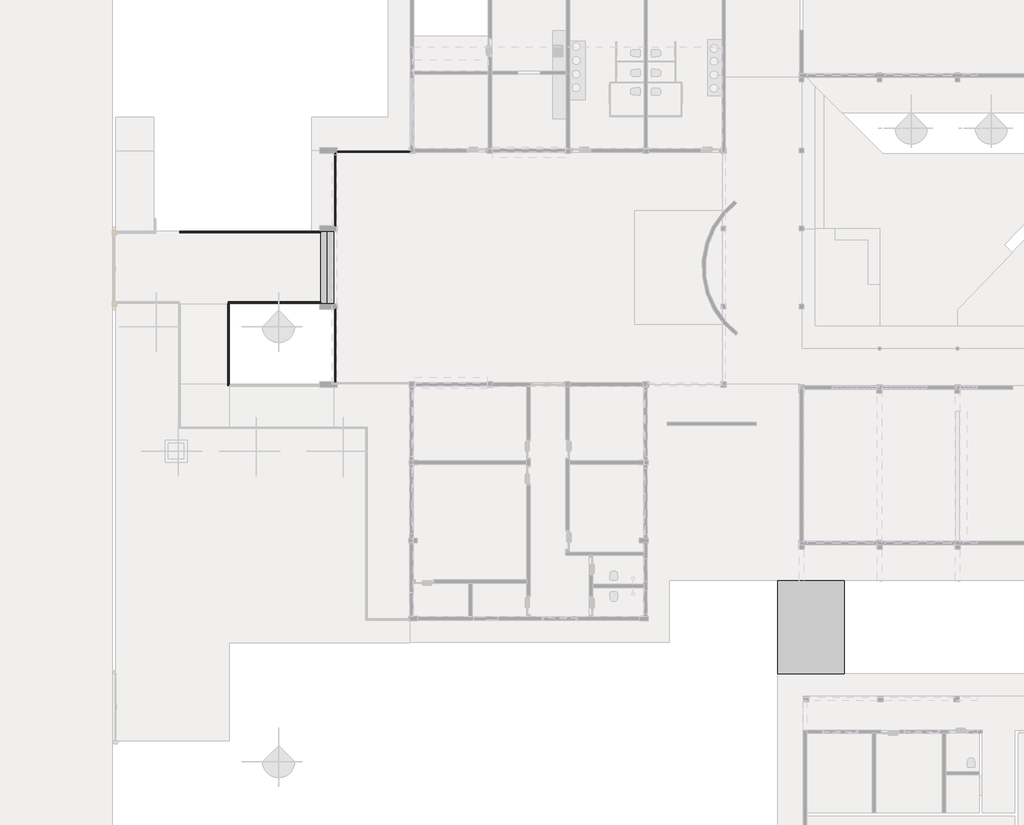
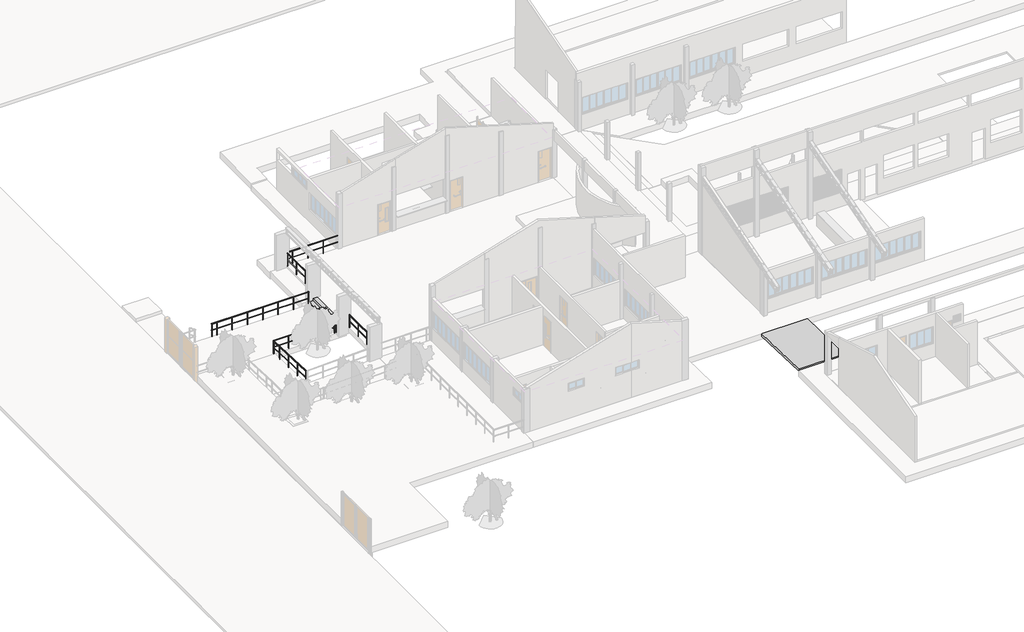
# One storey, part 10 of 12: 6 railings, 1 ramp, 1 stair flight.
"""IFC4 building model written with IfcOpenShell, lengths in millimetres."""

from ifc_helpers import new_model, si_unit, point, frame, frame_2d, origin, origin_with_axes, place, context, project, spatial, polyline, circle_curve, ellipse_curve, trimmed, segment, composite_curve, outline, extrude, faceted_brep, transform, mapped, element, save
from ifc_brep_helpers import plane_surface, cylinder_surface, advanced_brep
from components import ramp_bc2fdf4a

model = new_model("IFC4")

# Units and contexts
model_context = context("Model", 3, world=origin())
ifc_project = project(units=[si_unit("LENGTHUNIT", "METRE", prefix="MILLI")], contexts=[model_context])

# Site, building, storey
site = spatial("IfcSite", under=ifc_project)
building = spatial("IfcBuilding", under=site)
storey = spatial("IfcBuildingStorey", under=building, Name="Nível 1", Elevation=0.0)

# Railings
placement = place(None, origin())
element("IfcRailing", 1, ObjectType="900 mm Tubulação", at=placement, inside=storey, context=model_context, shape_type="SweptSolid", body=[
    extrude(outline(composite_curve([segment(trimmed(circle_curve(frame_2d((22671.5862478, 880.0)), 20.0), [point((22651.5862478, 880.0))], [point((22671.5862478, 900.0))], False, "CARTESIAN"), True, "CONTINUOUS"), segment(polyline([(22671.5862478, 900.0), (22691.5862478, 900.0)]), True, "CONTINUOUS"), segment(trimmed(circle_curve(frame_2d((22691.5862478, 880.0)), 20.0), [point((22691.5862478, 900.0))], [point((22711.5862478, 880.0))], False, "CARTESIAN"), True, "CONTINUOUS"), segment(polyline([(22711.5862478, 880.0), (22681.5862478, 880.0), (22651.5862478, 880.0)]), True, "CONTINUOUS")], self_intersect=False)), frame((-25143.1268603, 0.0, 0.0), z_axis=(1.0, 0.0, 0.0), x_axis=(0.0, 1.0, 0.0)), (0.0, 0.0, 1.0), 6344.6),
    extrude(outline(composite_curve([segment(trimmed(circle_curve(frame_2d((22681.5862478, 885.0)), 15.0), [point((22696.5862478, 885.0))], [point((22666.5862478, 885.0))], False, "CARTESIAN"), True, "CONTINUOUS"), segment(trimmed(circle_curve(frame_2d((22681.5862478, 885.0)), 15.0), [point((22666.5862478, 885.0))], [point((22696.5862478, 885.0))], False, "CARTESIAN"), True, "CONTINUOUS")], self_intersect=False)), frame((-25143.1268603, 0.0, 0.0), z_axis=(1.0, 0.0, 0.0), x_axis=(0.0, 1.0, 0.0)), (0.0, 0.0, 1.0), 6344.6),
    extrude(outline(composite_curve([segment(trimmed(circle_curve(frame_2d((22681.5862478, 435.0)), 15.0), [point((22696.5862478, 435.0))], [point((22666.5862478, 435.0))], False, "CARTESIAN"), True, "CONTINUOUS"), segment(trimmed(circle_curve(frame_2d((22681.5862478, 435.0)), 15.0), [point((22666.5862478, 435.0))], [point((22696.5862478, 435.0))], False, "CARTESIAN"), True, "CONTINUOUS")], self_intersect=False)), frame((-25143.1268603, 0.0, 0.0), z_axis=(1.0, 0.0, 0.0), x_axis=(0.0, 1.0, 0.0)), (0.0, 0.0, 1.0), 6344.6),
    extrude(outline(composite_curve([segment(trimmed(circle_curve(frame_2d((-24798.5268603, 22681.5862478)), 12.5), [point((-24798.5268603, 22694.0862478))], [point((-24798.5268603, 22669.0862478))], False, "CARTESIAN"), True, "CONTINUOUS"), segment(trimmed(circle_curve(frame_2d((-24798.5268603, 22681.5862478)), 12.5), [point((-24798.5268603, 22669.0862478))], [point((-24798.5268603, 22694.0862478))], False, "CARTESIAN"), True, "CONTINUOUS")], self_intersect=False)), origin_with_axes(), (0.0, 0.0, 1.0), 870.0),
    extrude(outline(composite_curve([segment(trimmed(circle_curve(frame_2d((-23798.5268603, 22681.5862478)), 12.5), [point((-23798.5268603, 22694.0862478))], [point((-23798.5268603, 22669.0862478))], False, "CARTESIAN"), True, "CONTINUOUS"), segment(trimmed(circle_curve(frame_2d((-23798.5268603, 22681.5862478)), 12.5), [point((-23798.5268603, 22669.0862478))], [point((-23798.5268603, 22694.0862478))], False, "CARTESIAN"), True, "CONTINUOUS")], self_intersect=False)), origin_with_axes(), (0.0, 0.0, 1.0), 870.0),
    extrude(outline(composite_curve([segment(trimmed(circle_curve(frame_2d((-22798.5268603, 22681.5862478)), 12.5), [point((-22798.5268603, 22694.0862478))], [point((-22798.5268603, 22669.0862478))], False, "CARTESIAN"), True, "CONTINUOUS"), segment(trimmed(circle_curve(frame_2d((-22798.5268603, 22681.5862478)), 12.5), [point((-22798.5268603, 22669.0862478))], [point((-22798.5268603, 22694.0862478))], False, "CARTESIAN"), True, "CONTINUOUS")], self_intersect=False)), origin_with_axes(), (0.0, 0.0, 1.0), 870.0),
    extrude(outline(composite_curve([segment(trimmed(circle_curve(frame_2d((-21798.5268603, 22681.5862478)), 12.5), [point((-21798.5268603, 22694.0862478))], [point((-21798.5268603, 22669.0862478))], False, "CARTESIAN"), True, "CONTINUOUS"), segment(trimmed(circle_curve(frame_2d((-21798.5268603, 22681.5862478)), 12.5), [point((-21798.5268603, 22669.0862478))], [point((-21798.5268603, 22694.0862478))], False, "CARTESIAN"), True, "CONTINUOUS")], self_intersect=False)), origin_with_axes(), (0.0, 0.0, 1.0), 870.0),
    extrude(outline(composite_curve([segment(trimmed(circle_curve(frame_2d((-20798.5268603, 22681.5862478)), 12.5), [point((-20798.5268603, 22694.0862478))], [point((-20798.5268603, 22669.0862478))], False, "CARTESIAN"), True, "CONTINUOUS"), segment(trimmed(circle_curve(frame_2d((-20798.5268603, 22681.5862478)), 12.5), [point((-20798.5268603, 22669.0862478))], [point((-20798.5268603, 22694.0862478))], False, "CARTESIAN"), True, "CONTINUOUS")], self_intersect=False)), origin_with_axes(), (0.0, 0.0, 1.0), 870.0),
    extrude(outline(composite_curve([segment(trimmed(circle_curve(frame_2d((-19798.5268603, 22681.5862478)), 12.5), [point((-19798.5268603, 22694.0862478))], [point((-19798.5268603, 22669.0862478))], False, "CARTESIAN"), True, "CONTINUOUS"), segment(trimmed(circle_curve(frame_2d((-19798.5268603, 22681.5862478)), 12.5), [point((-19798.5268603, 22669.0862478))], [point((-19798.5268603, 22694.0862478))], False, "CARTESIAN"), True, "CONTINUOUS")], self_intersect=False)), origin_with_axes(), (0.0, 0.0, 1.0), 870.0),
    extrude(outline(composite_curve([segment(trimmed(circle_curve(frame_2d((-25130.6268603, 22681.5862478)), 12.5), [point((-25130.6268603, 22694.0862478))], [point((-25130.6268603, 22669.0862478))], False, "CARTESIAN"), True, "CONTINUOUS"), segment(trimmed(circle_curve(frame_2d((-25130.6268603, 22681.5862478)), 12.5), [point((-25130.6268603, 22669.0862478))], [point((-25130.6268603, 22694.0862478))], False, "CARTESIAN"), True, "CONTINUOUS")], self_intersect=False)), origin_with_axes(), (0.0, 0.0, 1.0), 880.0),
    extrude(outline(composite_curve([segment(trimmed(circle_curve(frame_2d((-18811.0268603, 22681.5862478)), 12.5), [point((-18811.0268603, 22694.0862478))], [point((-18811.0268603, 22669.0862478))], False, "CARTESIAN"), True, "CONTINUOUS"), segment(trimmed(circle_curve(frame_2d((-18811.0268603, 22681.5862478)), 12.5), [point((-18811.0268603, 22669.0862478))], [point((-18811.0268603, 22694.0862478))], False, "CARTESIAN"), True, "CONTINUOUS")], self_intersect=False)), origin_with_axes(), (0.0, 0.0, 1.0), 880.0),
])
element("IfcRailing", 2, ObjectType="900 mm Tubulação", at=placement, inside=storey, context=model_context, shape_type="SweptSolid", body=[
    extrude(outline(composite_curve([segment(trimmed(circle_curve(frame_2d((26271.1862478, 1180.0)), 20.0), [point((26251.1862478, 1180.0))], [point((26271.1862478, 1200.0))], False, "CARTESIAN"), True, "CONTINUOUS"), segment(polyline([(26271.1862478, 1200.0), (26291.1862478, 1200.0)]), True, "CONTINUOUS"), segment(trimmed(circle_curve(frame_2d((26291.1862478, 1180.0)), 20.0), [point((26291.1862478, 1200.0))], [point((26311.1862478, 1180.0))], False, "CARTESIAN"), True, "CONTINUOUS"), segment(polyline([(26311.1862478, 1180.0), (26281.1862478, 1180.0), (26251.1862478, 1180.0)]), True, "CONTINUOUS")], self_intersect=False)), frame((-18048.5268603, 0.0, 0.0), z_axis=(1.0, 0.0, 0.0), x_axis=(0.0, 1.0, 0.0)), (0.0, 0.0, 1.0), 3275.0554127),
    extrude(outline(composite_curve([segment(trimmed(circle_curve(frame_2d((26281.1862478, 1185.0)), 15.0), [point((26266.1862478, 1185.0))], [point((26296.1862478, 1185.0))], False, "CARTESIAN"), True, "CONTINUOUS"), segment(trimmed(circle_curve(frame_2d((26281.1862478, 1185.0)), 15.0), [point((26296.1862478, 1185.0))], [point((26266.1862478, 1185.0))], False, "CARTESIAN"), True, "CONTINUOUS")], self_intersect=False)), frame((-18048.5268603, 0.0, 0.0), z_axis=(1.0, 0.0, 0.0), x_axis=(0.0, 1.0, 0.0)), (0.0, 0.0, 1.0), 3275.0554127),
    extrude(outline(composite_curve([segment(trimmed(circle_curve(frame_2d((26281.1862478, 735.0)), 15.0), [point((26266.1862478, 735.0))], [point((26296.1862478, 735.0))], False, "CARTESIAN"), True, "CONTINUOUS"), segment(trimmed(circle_curve(frame_2d((26281.1862478, 735.0)), 15.0), [point((26296.1862478, 735.0))], [point((26266.1862478, 735.0))], False, "CARTESIAN"), True, "CONTINUOUS")], self_intersect=False)), frame((-18048.5268603, 0.0, 0.0), z_axis=(1.0, 0.0, 0.0), x_axis=(0.0, 1.0, 0.0)), (0.0, 0.0, 1.0), 3275.0554127),
    extrude(outline(composite_curve([segment(trimmed(circle_curve(frame_2d((-17773.4714475, 26281.1862478)), 12.5), [point((-17773.4714475, 26268.6862478))], [point((-17773.4714475, 26293.6862478))], False, "CARTESIAN"), True, "CONTINUOUS"), segment(trimmed(circle_curve(frame_2d((-17773.4714475, 26281.1862478)), 12.5), [point((-17773.4714475, 26293.6862478))], [point((-17773.4714475, 26268.6862478))], False, "CARTESIAN"), True, "CONTINUOUS")], self_intersect=False)), frame((0.0, 0.0, 300.0), z_axis=(0.0, 0.0, 1.0), x_axis=(1.0, 0.0, 0.0)), (0.0, 0.0, 1.0), 870.0),
    extrude(outline(composite_curve([segment(trimmed(circle_curve(frame_2d((-16773.4714475, 26281.1862478)), 12.5), [point((-16773.4714475, 26268.6862478))], [point((-16773.4714475, 26293.6862478))], False, "CARTESIAN"), True, "CONTINUOUS"), segment(trimmed(circle_curve(frame_2d((-16773.4714475, 26281.1862478)), 12.5), [point((-16773.4714475, 26293.6862478))], [point((-16773.4714475, 26268.6862478))], False, "CARTESIAN"), True, "CONTINUOUS")], self_intersect=False)), frame((0.0, 0.0, 300.0), z_axis=(0.0, 0.0, 1.0), x_axis=(1.0, 0.0, 0.0)), (0.0, 0.0, 1.0), 870.0),
    extrude(outline(composite_curve([segment(trimmed(circle_curve(frame_2d((-15773.4714475, 26281.1862478)), 12.5), [point((-15773.4714475, 26268.6862478))], [point((-15773.4714475, 26293.6862478))], False, "CARTESIAN"), True, "CONTINUOUS"), segment(trimmed(circle_curve(frame_2d((-15773.4714475, 26281.1862478)), 12.5), [point((-15773.4714475, 26293.6862478))], [point((-15773.4714475, 26268.6862478))], False, "CARTESIAN"), True, "CONTINUOUS")], self_intersect=False)), frame((0.0, 0.0, 300.0), z_axis=(0.0, 0.0, 1.0), x_axis=(1.0, 0.0, 0.0)), (0.0, 0.0, 1.0), 870.0),
    extrude(outline(composite_curve([segment(trimmed(circle_curve(frame_2d((-18036.0268603, 26281.1862478)), 12.5), [point((-18036.0268603, 26268.6862478))], [point((-18036.0268603, 26293.6862478))], False, "CARTESIAN"), True, "CONTINUOUS"), segment(trimmed(circle_curve(frame_2d((-18036.0268603, 26281.1862478)), 12.5), [point((-18036.0268603, 26293.6862478))], [point((-18036.0268603, 26268.6862478))], False, "CARTESIAN"), True, "CONTINUOUS")], self_intersect=False)), frame((0.0, 0.0, 300.0), z_axis=(0.0, 0.0, 1.0), x_axis=(1.0, 0.0, 0.0)), (0.0, 0.0, 1.0), 880.0),
    extrude(outline(composite_curve([segment(trimmed(circle_curve(frame_2d((-14785.9714475, 26281.1862478)), 12.5), [point((-14785.9714475, 26268.6862478))], [point((-14785.9714475, 26293.6862478))], False, "CARTESIAN"), True, "CONTINUOUS"), segment(trimmed(circle_curve(frame_2d((-14785.9714475, 26281.1862478)), 12.5), [point((-14785.9714475, 26293.6862478))], [point((-14785.9714475, 26268.6862478))], False, "CARTESIAN"), True, "CONTINUOUS")], self_intersect=False)), frame((0.0, 0.0, 300.0), z_axis=(0.0, 0.0, 1.0), x_axis=(1.0, 0.0, 0.0)), (0.0, 0.0, 1.0), 880.0),
])
element("IfcRailing", 3, ObjectType="900 mm Tubulação", at=placement, inside=storey, context=model_context, shape_type="SweptSolid", body=[
    extrude(outline(composite_curve([segment(polyline([(19536.1862478, 880.0), (19506.1862478, 880.0), (19476.1862478, 880.0)]), True, "CONTINUOUS"), segment(trimmed(circle_curve(frame_2d((19496.1862478, 880.0)), 20.0), [point((19476.1862478, 880.0))], [point((19496.1862478, 900.0))], False, "CARTESIAN"), True, "CONTINUOUS"), segment(polyline([(19496.1862478, 900.0), (19516.1862478, 900.0)]), True, "CONTINUOUS"), segment(trimmed(circle_curve(frame_2d((19516.1862478, 880.0)), 20.0), [point((19516.1862478, 900.0))], [point((19536.1862478, 880.0))], False, "CARTESIAN"), True, "CONTINUOUS")], self_intersect=False)), frame((-22948.5268603, 0.0, 0.0), z_axis=(1.0, 0.0, 0.0), x_axis=(0.0, 1.0, 0.0)), (0.0, 0.0, 1.0), 4150.0),
    extrude(outline(composite_curve([segment(trimmed(circle_curve(frame_2d((19506.1862478, 885.0)), 15.0), [point((19521.1862478, 885.0))], [point((19491.1862478, 885.0))], False, "CARTESIAN"), True, "CONTINUOUS"), segment(trimmed(circle_curve(frame_2d((19506.1862478, 885.0)), 15.0), [point((19491.1862478, 885.0))], [point((19521.1862478, 885.0))], False, "CARTESIAN"), True, "CONTINUOUS")], self_intersect=False)), frame((-22948.5268603, 0.0, 0.0), z_axis=(1.0, 0.0, 0.0), x_axis=(0.0, 1.0, 0.0)), (0.0, 0.0, 1.0), 4150.0),
    extrude(outline(composite_curve([segment(trimmed(circle_curve(frame_2d((19506.1862478, 435.0)), 15.0), [point((19521.1862478, 435.0))], [point((19491.1862478, 435.0))], False, "CARTESIAN"), True, "CONTINUOUS"), segment(trimmed(circle_curve(frame_2d((19506.1862478, 435.0)), 15.0), [point((19491.1862478, 435.0))], [point((19521.1862478, 435.0))], False, "CARTESIAN"), True, "CONTINUOUS")], self_intersect=False)), frame((-22948.5268603, 0.0, 0.0), z_axis=(1.0, 0.0, 0.0), x_axis=(0.0, 1.0, 0.0)), (0.0, 0.0, 1.0), 4150.0),
    extrude(outline(composite_curve([segment(trimmed(circle_curve(frame_2d((-18948.5268603, 19506.1862478)), 12.5), [point((-18948.5268603, 19518.6862478))], [point((-18948.5268603, 19493.6862478))], False, "CARTESIAN"), True, "CONTINUOUS"), segment(trimmed(circle_curve(frame_2d((-18948.5268603, 19506.1862478)), 12.5), [point((-18948.5268603, 19493.6862478))], [point((-18948.5268603, 19518.6862478))], False, "CARTESIAN"), True, "CONTINUOUS")], self_intersect=False)), origin_with_axes(), (0.0, 0.0, 1.0), 870.0),
    extrude(outline(composite_curve([segment(trimmed(circle_curve(frame_2d((-19948.5268603, 19506.1862478)), 12.5), [point((-19948.5268603, 19518.6862478))], [point((-19948.5268603, 19493.6862478))], False, "CARTESIAN"), True, "CONTINUOUS"), segment(trimmed(circle_curve(frame_2d((-19948.5268603, 19506.1862478)), 12.5), [point((-19948.5268603, 19493.6862478))], [point((-19948.5268603, 19518.6862478))], False, "CARTESIAN"), True, "CONTINUOUS")], self_intersect=False)), origin_with_axes(), (0.0, 0.0, 1.0), 870.0),
    extrude(outline(composite_curve([segment(trimmed(circle_curve(frame_2d((-20948.5268603, 19506.1862478)), 12.5), [point((-20948.5268603, 19518.6862478))], [point((-20948.5268603, 19493.6862478))], False, "CARTESIAN"), True, "CONTINUOUS"), segment(trimmed(circle_curve(frame_2d((-20948.5268603, 19506.1862478)), 12.5), [point((-20948.5268603, 19493.6862478))], [point((-20948.5268603, 19518.6862478))], False, "CARTESIAN"), True, "CONTINUOUS")], self_intersect=False)), origin_with_axes(), (0.0, 0.0, 1.0), 870.0),
    extrude(outline(composite_curve([segment(trimmed(circle_curve(frame_2d((-21948.5268603, 19506.1862478)), 12.5), [point((-21948.5268603, 19518.6862478))], [point((-21948.5268603, 19493.6862478))], False, "CARTESIAN"), True, "CONTINUOUS"), segment(trimmed(circle_curve(frame_2d((-21948.5268603, 19506.1862478)), 12.5), [point((-21948.5268603, 19493.6862478))], [point((-21948.5268603, 19518.6862478))], False, "CARTESIAN"), True, "CONTINUOUS")], self_intersect=False)), origin_with_axes(), (0.0, 0.0, 1.0), 870.0),
    extrude(outline(composite_curve([segment(trimmed(circle_curve(frame_2d((-18811.0268603, 19506.1862478)), 12.5), [point((-18811.0268603, 19518.6862478))], [point((-18811.0268603, 19493.6862478))], False, "CARTESIAN"), True, "CONTINUOUS"), segment(trimmed(circle_curve(frame_2d((-18811.0268603, 19506.1862478)), 12.5), [point((-18811.0268603, 19493.6862478))], [point((-18811.0268603, 19518.6862478))], False, "CARTESIAN"), True, "CONTINUOUS")], self_intersect=False)), origin_with_axes(), (0.0, 0.0, 1.0), 880.0),
    extrude(outline(composite_curve([segment(trimmed(circle_curve(frame_2d((-22936.0268603, 19506.1862478)), 12.5), [point((-22936.0268603, 19518.6862478))], [point((-22936.0268603, 19493.6862478))], False, "CARTESIAN"), True, "CONTINUOUS"), segment(trimmed(circle_curve(frame_2d((-22936.0268603, 19506.1862478)), 12.5), [point((-22936.0268603, 19493.6862478))], [point((-22936.0268603, 19518.6862478))], False, "CARTESIAN"), True, "CONTINUOUS")], self_intersect=False)), origin_with_axes(), (0.0, 0.0, 1.0), 880.0),
])
element("IfcRailing", 4, ObjectType="900 mm Tubulação", at=placement, inside=storey, context=model_context, shape_type="AdvancedBrep", body=[
    advanced_brep(
    [(-22978.5268603, 15781.1862478, 1032.0622716), (-22948.5268603, 15781.1862478, 1032.0622716), (-22918.5268603, 15781.1862478, 1032.0622716), (-22938.5268603, 15781.1862478, 1052.0795625), (-22958.5268603, 15781.1862478, 1052.0795625), (-22978.5268603, 19456.1862478, 879.2144305), (-22958.5268603, 19456.1862478, 899.2317214), (-22938.5268603, 19456.1862478, 899.2317214), (-22918.5268603, 19456.1862478, 879.2144305), (-22948.5268603, 19456.1862478, 879.2144305)],
    [
        (0, 1),
        (1, 2),
        (2, 3, ellipse_curve(frame((-22938.5268603, 15781.1862478, 1032.0622716), z_axis=(0.0, -1.0, 0.0), x_axis=(0.0, 0.0, 1.0)), 20.0172908, 20.0)),
        (3, 4),
        (4, 0, ellipse_curve(frame((-22958.5268603, 15781.1862478, 1032.0622716), z_axis=(0.0, -1.0, 0.0), x_axis=(0.0, 0.0, 1.0)), 20.0172908, 20.0)),
        (5, 6, ellipse_curve(frame((-22958.5268603, 19456.1862478, 879.2144305), z_axis=(0.0, 1.0, 0.0), x_axis=(0.0, 0.0, 1.0)), 20.0172908, 20.0)),
        (6, 7),
        (7, 8, ellipse_curve(frame((-22938.5268603, 19456.1862478, 879.2144305), z_axis=(0.0, 1.0, 0.0), x_axis=(0.0, 0.0, 1.0)), 20.0172908, 20.0)),
        (8, 9),
        (9, 5),
        (0, 5),
        (9, 1),
        (8, 2),
        (7, 3),
        (6, 4),
    ],
    [
        plane_surface(frame((-22948.5268603, 15781.1862478, 1052.0795625), z_axis=(0.0, -1.0, 0.0), x_axis=(0.0, 0.0, 1.0))),
        plane_surface(frame((-22948.5268603, 19456.1862478, 899.2317214), z_axis=(0.0, 1.0, 0.0), x_axis=(0.0, 0.0, 1.0))),
        plane_surface(frame((-22978.5268603, 15781.1862478, 1032.0622716), z_axis=(0.0, -0.041555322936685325, -0.999136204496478), x_axis=(0.0, 0.999136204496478, -0.041555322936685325))),
        plane_surface(frame((-22948.5268603, 15781.1862478, 1032.0622716), z_axis=(0.0, -0.041555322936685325, -0.999136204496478), x_axis=(0.0, 0.999136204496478, -0.041555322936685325))),
        cylinder_surface(frame((-22938.5268603, 15780.3551413, 1032.0968384), z_axis=(0.0, -0.999136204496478, 0.041555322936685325), x_axis=(-1.0, 0.0, 0.0)), 20.0),
        plane_surface(frame((-22938.5268603, 15781.1862478, 1052.0795625), z_axis=(0.0, 0.041555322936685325, 0.999136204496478), x_axis=(0.0, 0.999136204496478, -0.041555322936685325))),
        cylinder_surface(frame((-22958.5268603, 15780.3551413, 1032.0968384), z_axis=(0.0, -0.999136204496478, 0.041555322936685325), x_axis=(-1.0, 0.0, 0.0)), 20.0),
    ],
    [
        (0, [[1, 2, 3, 4, 5]]),
        (1, [[6, 7, 8, 9, 10]]),
        (2, [[-1, 11, -10, 12]]),
        (3, [[-2, -12, -9, 13]]),
        (4, [[-3, -13, -8, 14]]),
        (5, [[-4, -14, -7, 15]]),
        (6, [[-5, -15, -6, -11]]),
    ],
),
    advanced_brep(
    [(-22963.5268603, 15781.1862478, 1037.0665943), (-22933.5268603, 15781.1862478, 1037.0665943), (-22963.5268603, 19456.1862478, 884.2187533), (-22933.5268603, 19456.1862478, 884.2187533)],
    [
        (0, 1, ellipse_curve(frame((-22948.5268603, 15781.1862478, 1037.0665943), z_axis=(0.0, -1.0, 0.0), x_axis=(0.0, 0.0, 1.0)), 15.0129681, 15.0)),
        (1, 0, ellipse_curve(frame((-22948.5268603, 15781.1862478, 1037.0665943), z_axis=(0.0, -1.0, 0.0), x_axis=(0.0, 0.0, 1.0)), 15.0129681, 15.0)),
        (2, 3, ellipse_curve(frame((-22948.5268603, 19456.1862478, 884.2187533), z_axis=(0.0, 1.0, 0.0), x_axis=(0.0, 0.0, 1.0)), 15.0129681, 15.0)),
        (3, 2, ellipse_curve(frame((-22948.5268603, 19456.1862478, 884.2187533), z_axis=(0.0, 1.0, 0.0), x_axis=(0.0, 0.0, 1.0)), 15.0129681, 15.0)),
        (0, 2),
        (3, 1),
    ],
    [
        plane_surface(frame((-22948.5268603, 15781.1862478, 1052.0795625), z_axis=(0.0, -1.0, 0.0), x_axis=(0.0, 0.0, 1.0))),
        plane_surface(frame((-22948.5268603, 19456.1862478, 899.2317214), z_axis=(0.0, 1.0, 0.0), x_axis=(0.0, 0.0, 1.0))),
        cylinder_surface(frame((-22948.5268603, 15780.5629179, 1037.0925194), z_axis=(0.0, -0.999136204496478, 0.041555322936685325), x_axis=(1.0, 0.0, 0.0)), 15.0),
    ],
    [
        (0, [[1, 2]]),
        (1, [[3, 4]]),
        (2, [[-1, 5, -4, 6]]),
        (2, [[-2, -6, -3, -5]]),
    ],
),
    advanced_brep(
    [(-22963.5268603, 15781.1862478, 587.0665943), (-22933.5268603, 15781.1862478, 587.0665943), (-22963.5268603, 19456.1862478, 434.2187533), (-22933.5268603, 19456.1862478, 434.2187533)],
    [
        (0, 1, ellipse_curve(frame((-22948.5268603, 15781.1862478, 587.0665943), z_axis=(0.0, -1.0, 0.0), x_axis=(0.0, 0.0, 1.0)), 15.0129681, 15.0)),
        (1, 0, ellipse_curve(frame((-22948.5268603, 15781.1862478, 587.0665943), z_axis=(0.0, -1.0, 0.0), x_axis=(0.0, 0.0, 1.0)), 15.0129681, 15.0)),
        (2, 3, ellipse_curve(frame((-22948.5268603, 19456.1862478, 434.2187533), z_axis=(0.0, 1.0, 0.0), x_axis=(0.0, 0.0, 1.0)), 15.0129681, 15.0)),
        (3, 2, ellipse_curve(frame((-22948.5268603, 19456.1862478, 434.2187533), z_axis=(0.0, 1.0, 0.0), x_axis=(0.0, 0.0, 1.0)), 15.0129681, 15.0)),
        (0, 2),
        (3, 1),
    ],
    [
        plane_surface(frame((-22948.5268603, 15781.1862478, 602.0795625), z_axis=(0.0, -1.0, 0.0), x_axis=(0.0, 0.0, 1.0))),
        plane_surface(frame((-22948.5268603, 19456.1862478, 449.2317214), z_axis=(0.0, 1.0, 0.0), x_axis=(0.0, 0.0, 1.0))),
        cylinder_surface(frame((-22948.5268603, 15780.5629179, 587.0925194), z_axis=(0.0, -0.999136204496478, 0.04155532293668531), x_axis=(1.0, 0.0, 0.0)), 15.0),
    ],
    [
        (0, [[1, 2]]),
        (1, [[3, 4]]),
        (2, [[-1, 5, -4, 6]]),
        (2, [[-2, -6, -3, -5]]),
    ],
),
    advanced_brep(
    [(-22936.0268603, 18781.1862478, 897.3058147), (-22936.0268603, 18781.1862478, 27.3058147), (-22961.0268603, 18781.1862478, 27.3058147), (-22961.0268603, 18781.1862478, 897.3058147)],
    [
        (0, 1),
        (1, 2, ellipse_curve(frame((-22948.5268603, 18781.1862478, 27.3058147), z_axis=(0.0, 0.04155532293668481, 0.999136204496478), x_axis=(0.0, -0.9991362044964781, 0.04155532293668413)), 12.5108068, 12.5)),
        (2, 3),
        (3, 0, ellipse_curve(frame((-22948.5268603, 18781.1862478, 897.3058147), z_axis=(0.0, -0.04155532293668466, -0.999136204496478), x_axis=(0.0, -0.9991362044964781, 0.041555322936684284)), 12.5108068, 12.5)),
        (0, 3, ellipse_curve(frame((-22948.5268603, 18781.1862478, 897.3058147), z_axis=(0.0, -0.04155532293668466, -0.999136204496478), x_axis=(0.0, -0.9991362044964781, 0.041555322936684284)), 12.5108068, 12.5)),
        (2, 1, ellipse_curve(frame((-22948.5268603, 18781.1862478, 27.3058147), z_axis=(0.0, 0.04155532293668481, 0.999136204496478), x_axis=(0.0, -0.9991362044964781, 0.04155532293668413)), 12.5108068, 12.5)),
    ],
    [
        cylinder_surface(frame((-22948.5268603, 18781.1862478, -72.6941853), z_axis=(0.0, 0.0, 1.0), x_axis=(-1.0, 0.0, 0.0)), 12.5),
        plane_surface(frame((-22973.5268603, 18806.1862478, 896.2660334), z_axis=(0.0, 0.04155532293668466, 0.999136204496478), x_axis=(1.0, 0.0, 0.0))),
        plane_surface(frame((-22973.5268603, 18756.1862478, 28.3455959), z_axis=(0.0, -0.04155532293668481, -0.999136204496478), x_axis=(1.0, 0.0, 0.0))),
    ],
    [
        (0, [[1, 2, 3, 4]]),
        (0, [[-1, 5, -3, 6]]),
        (1, [[-4, -5]]),
        (2, [[-2, -6]]),
    ],
),
    advanced_brep(
    [(-22936.0268603, 17781.1862478, 938.8970639), (-22936.0268603, 17781.1862478, 68.8970639), (-22961.0268603, 17781.1862478, 68.8970639), (-22961.0268603, 17781.1862478, 938.8970639)],
    [
        (0, 1),
        (1, 2, ellipse_curve(frame((-22948.5268603, 17781.1862478, 68.8970639), z_axis=(0.0, 0.04155532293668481, 0.999136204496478), x_axis=(0.0, -0.9991362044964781, 0.04155532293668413)), 12.5108068, 12.5)),
        (2, 3),
        (3, 0, ellipse_curve(frame((-22948.5268603, 17781.1862478, 938.8970639), z_axis=(0.0, -0.04155532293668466, -0.999136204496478), x_axis=(0.0, -0.9991362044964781, 0.041555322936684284)), 12.5108068, 12.5)),
        (0, 3, ellipse_curve(frame((-22948.5268603, 17781.1862478, 938.8970639), z_axis=(0.0, -0.04155532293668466, -0.999136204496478), x_axis=(0.0, -0.9991362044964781, 0.041555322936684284)), 12.5108068, 12.5)),
        (2, 1, ellipse_curve(frame((-22948.5268603, 17781.1862478, 68.8970639), z_axis=(0.0, 0.04155532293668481, 0.999136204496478), x_axis=(0.0, -0.9991362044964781, 0.04155532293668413)), 12.5108068, 12.5)),
    ],
    [
        cylinder_surface(frame((-22948.5268603, 17781.1862478, -31.1029361), z_axis=(0.0, 0.0, 1.0), x_axis=(-1.0, 0.0, 0.0)), 12.5),
        plane_surface(frame((-22973.5268603, 17806.1862478, 937.8572827), z_axis=(0.0, 0.04155532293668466, 0.999136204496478), x_axis=(1.0, 0.0, 0.0))),
        plane_surface(frame((-22973.5268603, 17756.1862478, 69.9368452), z_axis=(0.0, -0.04155532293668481, -0.999136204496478), x_axis=(1.0, 0.0, 0.0))),
    ],
    [
        (0, [[1, 2, 3, 4]]),
        (0, [[-1, 5, -3, 6]]),
        (1, [[-4, -5]]),
        (2, [[-2, -6]]),
    ],
),
    advanced_brep(
    [(-22936.0268603, 16781.1862478, 980.4883132), (-22936.0268603, 16781.1862478, 110.4883132), (-22961.0268603, 16781.1862478, 110.4883132), (-22961.0268603, 16781.1862478, 980.4883132)],
    [
        (0, 1),
        (1, 2, ellipse_curve(frame((-22948.5268603, 16781.1862478, 110.4883132), z_axis=(0.0, 0.04155532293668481, 0.999136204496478), x_axis=(0.0, -0.9991362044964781, 0.04155532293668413)), 12.5108068, 12.5)),
        (2, 3),
        (3, 0, ellipse_curve(frame((-22948.5268603, 16781.1862478, 980.4883132), z_axis=(0.0, -0.04155532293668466, -0.999136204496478), x_axis=(0.0, -0.9991362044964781, 0.041555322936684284)), 12.5108068, 12.5)),
        (0, 3, ellipse_curve(frame((-22948.5268603, 16781.1862478, 980.4883132), z_axis=(0.0, -0.04155532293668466, -0.999136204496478), x_axis=(0.0, -0.9991362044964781, 0.041555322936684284)), 12.5108068, 12.5)),
        (2, 1, ellipse_curve(frame((-22948.5268603, 16781.1862478, 110.4883132), z_axis=(0.0, 0.04155532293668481, 0.999136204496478), x_axis=(0.0, -0.9991362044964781, 0.04155532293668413)), 12.5108068, 12.5)),
    ],
    [
        cylinder_surface(frame((-22948.5268603, 16781.1862478, 10.4883132), z_axis=(0.0, 0.0, 1.0), x_axis=(-1.0, 0.0, 0.0)), 12.5),
        plane_surface(frame((-22973.5268603, 16806.1862478, 979.448532), z_axis=(0.0, 0.04155532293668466, 0.999136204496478), x_axis=(1.0, 0.0, 0.0))),
        plane_surface(frame((-22973.5268603, 16756.1862478, 111.5280944), z_axis=(0.0, -0.04155532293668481, -0.999136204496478), x_axis=(1.0, 0.0, 0.0))),
    ],
    [
        (0, [[1, 2, 3, 4]]),
        (0, [[-1, 5, -3, 6]]),
        (1, [[-4, -5]]),
        (2, [[-2, -6]]),
    ],
),
    advanced_brep(
    [(-22936.0268603, 19443.6862478, 879.7343212), (-22936.0268603, 19443.6862478, -0.248388), (-22961.0268603, 19443.6862478, -0.248388), (-22961.0268603, 19443.6862478, 879.7343212)],
    [
        (0, 1),
        (1, 2, ellipse_curve(frame((-22948.5268603, 19443.6862478, -0.248388), z_axis=(0.0, 0.04155532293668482, 0.999136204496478), x_axis=(0.0, -0.9991362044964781, 0.04155532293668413)), 12.5108068, 12.5)),
        (2, 3),
        (3, 0, ellipse_curve(frame((-22948.5268603, 19443.6862478, 879.7343212), z_axis=(0.0, -0.04155532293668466, -0.999136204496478), x_axis=(0.0, -0.9991362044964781, 0.041555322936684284)), 12.5108068, 12.5)),
        (0, 3, ellipse_curve(frame((-22948.5268603, 19443.6862478, 879.7343212), z_axis=(0.0, -0.04155532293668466, -0.999136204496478), x_axis=(0.0, -0.9991362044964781, 0.041555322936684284)), 12.5108068, 12.5)),
        (2, 1, ellipse_curve(frame((-22948.5268603, 19443.6862478, -0.248388), z_axis=(0.0, 0.04155532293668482, 0.999136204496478), x_axis=(0.0, -0.9991362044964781, 0.04155532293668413)), 12.5108068, 12.5)),
    ],
    [
        cylinder_surface(frame((-22948.5268603, 19443.6862478, -100.248388), z_axis=(0.0, 0.0, 1.0), x_axis=(-1.0, 0.0, 0.0)), 12.5),
        plane_surface(frame((-22973.5268603, 19468.6862478, 878.6945399), z_axis=(0.0, 0.04155532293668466, 0.999136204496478), x_axis=(1.0, 0.0, 0.0))),
        plane_surface(frame((-22973.5268603, 19418.6862478, 0.7913932), z_axis=(0.0, -0.04155532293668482, -0.999136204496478), x_axis=(1.0, 0.0, 0.0))),
    ],
    [
        (0, [[1, 2, 3, 4]]),
        (0, [[-1, 5, -3, 6]]),
        (1, [[-4, -5]]),
        (2, [[-2, -6]]),
    ],
),
    advanced_brep(
    [(-22936.0268603, 15793.6862478, 1031.542381), (-22936.0268603, 15793.6862478, 151.5596718), (-22961.0268603, 15793.6862478, 151.5596718), (-22961.0268603, 15793.6862478, 1031.542381)],
    [
        (0, 1),
        (1, 2, ellipse_curve(frame((-22948.5268603, 15793.6862478, 151.5596718), z_axis=(0.0, 0.04155532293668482, 0.999136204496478), x_axis=(0.0, -0.9991362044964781, 0.04155532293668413)), 12.5108068, 12.5)),
        (2, 3),
        (3, 0, ellipse_curve(frame((-22948.5268603, 15793.6862478, 1031.542381), z_axis=(0.0, -0.04155532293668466, -0.999136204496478), x_axis=(0.0, -0.9991362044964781, 0.041555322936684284)), 12.5108068, 12.5)),
        (0, 3, ellipse_curve(frame((-22948.5268603, 15793.6862478, 1031.542381), z_axis=(0.0, -0.04155532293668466, -0.999136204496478), x_axis=(0.0, -0.9991362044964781, 0.041555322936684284)), 12.5108068, 12.5)),
        (2, 1, ellipse_curve(frame((-22948.5268603, 15793.6862478, 151.5596718), z_axis=(0.0, 0.04155532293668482, 0.999136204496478), x_axis=(0.0, -0.9991362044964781, 0.04155532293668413)), 12.5108068, 12.5)),
    ],
    [
        cylinder_surface(frame((-22948.5268603, 15793.6862478, 51.5596718), z_axis=(0.0, 0.0, 1.0), x_axis=(-1.0, 0.0, 0.0)), 12.5),
        plane_surface(frame((-22973.5268603, 15818.6862478, 1030.5025998), z_axis=(0.0, 0.04155532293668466, 0.999136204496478), x_axis=(1.0, 0.0, 0.0))),
        plane_surface(frame((-22973.5268603, 15768.6862478, 152.5994531), z_axis=(0.0, -0.04155532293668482, -0.999136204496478), x_axis=(1.0, 0.0, 0.0))),
    ],
    [
        (0, [[1, 2, 3, 4]]),
        (0, [[-1, 5, -3, 6]]),
        (1, [[-4, -5]]),
        (2, [[-2, -6]]),
    ],
),
])
element("IfcRailing", 5, ObjectType="900 mm Tubulação", at=placement, inside=storey, context=model_context, shape_type="SweptSolid", body=[
    extrude(outline(composite_curve([segment(trimmed(circle_curve(frame_2d((1180.0, -18138.4714475)), 20.0), [point((1180.0, -18118.4714475))], [point((1200.0, -18138.4714475))], False, "CARTESIAN"), True, "CONTINUOUS"), segment(polyline([(1200.0, -18138.4714475), (1200.0, -18158.4714475)]), True, "CONTINUOUS"), segment(trimmed(circle_curve(frame_2d((1180.0, -18158.4714475)), 20.0), [point((1200.0, -18158.4714475))], [point((1180.0, -18178.4714475))], False, "CARTESIAN"), True, "CONTINUOUS"), segment(polyline([(1180.0, -18178.4714475), (1180.0, -18148.4714475), (1180.0, -18118.4714475)]), True, "CONTINUOUS")], self_intersect=False)), frame((0.0, 22956.1862478, 0.0), z_axis=(0.0, 1.0, 0.0), x_axis=(0.0, 0.0, 1.0)), (0.0, 0.0, 1.0), 3249.993516),
    extrude(outline(composite_curve([segment(trimmed(circle_curve(frame_2d((1185.0, -18148.4714475)), 15.0), [point((1185.0, -18133.4714475))], [point((1185.0, -18163.4714475))], False, "CARTESIAN"), True, "CONTINUOUS"), segment(trimmed(circle_curve(frame_2d((1185.0, -18148.4714475)), 15.0), [point((1185.0, -18163.4714475))], [point((1185.0, -18133.4714475))], False, "CARTESIAN"), True, "CONTINUOUS")], self_intersect=False)), frame((0.0, 22956.1862478, 0.0), z_axis=(0.0, 1.0, 0.0), x_axis=(0.0, 0.0, 1.0)), (0.0, 0.0, 1.0), 3249.993516),
    extrude(outline(composite_curve([segment(trimmed(circle_curve(frame_2d((735.0, -18148.4714475)), 15.0), [point((735.0, -18133.4714475))], [point((735.0, -18163.4714475))], False, "CARTESIAN"), True, "CONTINUOUS"), segment(trimmed(circle_curve(frame_2d((735.0, -18148.4714475)), 15.0), [point((735.0, -18163.4714475))], [point((735.0, -18133.4714475))], False, "CARTESIAN"), True, "CONTINUOUS")], self_intersect=False)), frame((0.0, 22956.1862478, 0.0), z_axis=(0.0, 1.0, 0.0), x_axis=(0.0, 0.0, 1.0)), (0.0, 0.0, 1.0), 3249.993516),
    extrude(outline(composite_curve([segment(trimmed(circle_curve(frame_2d((-18148.4714475, 23206.1797638)), 12.5), [point((-18135.9714475, 23206.1797638))], [point((-18160.9714475, 23206.1797638))], False, "CARTESIAN"), True, "CONTINUOUS"), segment(trimmed(circle_curve(frame_2d((-18148.4714475, 23206.1797638)), 12.5), [point((-18160.9714475, 23206.1797638))], [point((-18135.9714475, 23206.1797638))], False, "CARTESIAN"), True, "CONTINUOUS")], self_intersect=False)), frame((0.0, 0.0, 300.0), z_axis=(0.0, 0.0, 1.0), x_axis=(1.0, 0.0, 0.0)), (0.0, 0.0, 1.0), 870.0),
    extrude(outline(composite_curve([segment(trimmed(circle_curve(frame_2d((-18148.4714475, 24206.1797638)), 12.5), [point((-18135.9714475, 24206.1797638))], [point((-18160.9714475, 24206.1797638))], False, "CARTESIAN"), True, "CONTINUOUS"), segment(trimmed(circle_curve(frame_2d((-18148.4714475, 24206.1797638)), 12.5), [point((-18160.9714475, 24206.1797638))], [point((-18135.9714475, 24206.1797638))], False, "CARTESIAN"), True, "CONTINUOUS")], self_intersect=False)), frame((0.0, 0.0, 300.0), z_axis=(0.0, 0.0, 1.0), x_axis=(1.0, 0.0, 0.0)), (0.0, 0.0, 1.0), 870.0),
    extrude(outline(composite_curve([segment(trimmed(circle_curve(frame_2d((-18148.4714475, 25206.1797638)), 12.5), [point((-18135.9714475, 25206.1797638))], [point((-18160.9714475, 25206.1797638))], False, "CARTESIAN"), True, "CONTINUOUS"), segment(trimmed(circle_curve(frame_2d((-18148.4714475, 25206.1797638)), 12.5), [point((-18160.9714475, 25206.1797638))], [point((-18135.9714475, 25206.1797638))], False, "CARTESIAN"), True, "CONTINUOUS")], self_intersect=False)), frame((0.0, 0.0, 300.0), z_axis=(0.0, 0.0, 1.0), x_axis=(1.0, 0.0, 0.0)), (0.0, 0.0, 1.0), 870.0),
    extrude(outline(composite_curve([segment(trimmed(circle_curve(frame_2d((-18148.4714475, 22968.6862478)), 12.5), [point((-18135.9714475, 22968.6862478))], [point((-18160.9714475, 22968.6862478))], False, "CARTESIAN"), True, "CONTINUOUS"), segment(trimmed(circle_curve(frame_2d((-18148.4714475, 22968.6862478)), 12.5), [point((-18160.9714475, 22968.6862478))], [point((-18135.9714475, 22968.6862478))], False, "CARTESIAN"), True, "CONTINUOUS")], self_intersect=False)), frame((0.0, 0.0, 300.0), z_axis=(0.0, 0.0, 1.0), x_axis=(1.0, 0.0, 0.0)), (0.0, 0.0, 1.0), 880.0),
    extrude(outline(composite_curve([segment(trimmed(circle_curve(frame_2d((-18148.4714475, 26193.6797638)), 12.5), [point((-18135.9714475, 26193.6797638))], [point((-18160.9714475, 26193.6797638))], False, "CARTESIAN"), True, "CONTINUOUS"), segment(trimmed(circle_curve(frame_2d((-18148.4714475, 26193.6797638)), 12.5), [point((-18160.9714475, 26193.6797638))], [point((-18135.9714475, 26193.6797638))], False, "CARTESIAN"), True, "CONTINUOUS")], self_intersect=False)), frame((0.0, 0.0, 300.0), z_axis=(0.0, 0.0, 1.0), x_axis=(1.0, 0.0, 0.0)), (0.0, 0.0, 1.0), 880.0),
])
element("IfcRailing", 6, ObjectType="900 mm Tubulação", at=placement, inside=storey, context=model_context, shape_type="SweptSolid", body=[
    extrude(outline(composite_curve([segment(trimmed(circle_curve(frame_2d((1180.0, -18138.4714475)), 20.0), [point((1180.0, -18118.4714475))], [point((1200.0, -18138.4714475))], False, "CARTESIAN"), True, "CONTINUOUS"), segment(polyline([(1200.0, -18138.4714475), (1200.0, -18158.4714475)]), True, "CONTINUOUS"), segment(trimmed(circle_curve(frame_2d((1180.0, -18158.4714475)), 20.0), [point((1200.0, -18158.4714475))], [point((1180.0, -18178.4714475))], False, "CARTESIAN"), True, "CONTINUOUS"), segment(polyline([(1180.0, -18178.4714475), (1180.0, -18148.4714475), (1180.0, -18118.4714475)]), True, "CONTINUOUS")], self_intersect=False)), frame((0.0, 15956.1797638, 0.0), z_axis=(0.0, 1.0, 0.0), x_axis=(0.0, 0.0, 1.0)), (0.0, 0.0, 1.0), 3250.0),
    extrude(outline(composite_curve([segment(trimmed(circle_curve(frame_2d((1185.0, -18148.4714475)), 15.0), [point((1185.0, -18133.4714475))], [point((1185.0, -18163.4714475))], False, "CARTESIAN"), True, "CONTINUOUS"), segment(trimmed(circle_curve(frame_2d((1185.0, -18148.4714475)), 15.0), [point((1185.0, -18163.4714475))], [point((1185.0, -18133.4714475))], False, "CARTESIAN"), True, "CONTINUOUS")], self_intersect=False)), frame((0.0, 15956.1797638, 0.0), z_axis=(0.0, 1.0, 0.0), x_axis=(0.0, 0.0, 1.0)), (0.0, 0.0, 1.0), 3250.0),
    extrude(outline(composite_curve([segment(trimmed(circle_curve(frame_2d((735.0, -18148.4714475)), 15.0), [point((735.0, -18133.4714475))], [point((735.0, -18163.4714475))], False, "CARTESIAN"), True, "CONTINUOUS"), segment(trimmed(circle_curve(frame_2d((735.0, -18148.4714475)), 15.0), [point((735.0, -18163.4714475))], [point((735.0, -18133.4714475))], False, "CARTESIAN"), True, "CONTINUOUS")], self_intersect=False)), frame((0.0, 15956.1797638, 0.0), z_axis=(0.0, 1.0, 0.0), x_axis=(0.0, 0.0, 1.0)), (0.0, 0.0, 1.0), 3250.0),
    extrude(outline(composite_curve([segment(trimmed(circle_curve(frame_2d((-18148.4714475, 16206.1797638)), 12.5), [point((-18135.9714475, 16206.1797638))], [point((-18160.9714475, 16206.1797638))], False, "CARTESIAN"), True, "CONTINUOUS"), segment(trimmed(circle_curve(frame_2d((-18148.4714475, 16206.1797638)), 12.5), [point((-18160.9714475, 16206.1797638))], [point((-18135.9714475, 16206.1797638))], False, "CARTESIAN"), True, "CONTINUOUS")], self_intersect=False)), frame((0.0, 0.0, 300.0), z_axis=(0.0, 0.0, 1.0), x_axis=(1.0, 0.0, 0.0)), (0.0, 0.0, 1.0), 870.0),
    extrude(outline(composite_curve([segment(trimmed(circle_curve(frame_2d((-18148.4714475, 17206.1797638)), 12.5), [point((-18135.9714475, 17206.1797638))], [point((-18160.9714475, 17206.1797638))], False, "CARTESIAN"), True, "CONTINUOUS"), segment(trimmed(circle_curve(frame_2d((-18148.4714475, 17206.1797638)), 12.5), [point((-18160.9714475, 17206.1797638))], [point((-18135.9714475, 17206.1797638))], False, "CARTESIAN"), True, "CONTINUOUS")], self_intersect=False)), frame((0.0, 0.0, 300.0), z_axis=(0.0, 0.0, 1.0), x_axis=(1.0, 0.0, 0.0)), (0.0, 0.0, 1.0), 870.0),
    extrude(outline(composite_curve([segment(trimmed(circle_curve(frame_2d((-18148.4714475, 18206.1797638)), 12.5), [point((-18135.9714475, 18206.1797638))], [point((-18160.9714475, 18206.1797638))], False, "CARTESIAN"), True, "CONTINUOUS"), segment(trimmed(circle_curve(frame_2d((-18148.4714475, 18206.1797638)), 12.5), [point((-18160.9714475, 18206.1797638))], [point((-18135.9714475, 18206.1797638))], False, "CARTESIAN"), True, "CONTINUOUS")], self_intersect=False)), frame((0.0, 0.0, 300.0), z_axis=(0.0, 0.0, 1.0), x_axis=(1.0, 0.0, 0.0)), (0.0, 0.0, 1.0), 870.0),
    extrude(outline(composite_curve([segment(trimmed(circle_curve(frame_2d((-18148.4714475, 15968.6797638)), 12.5), [point((-18135.9714475, 15968.6797638))], [point((-18160.9714475, 15968.6797638))], False, "CARTESIAN"), True, "CONTINUOUS"), segment(trimmed(circle_curve(frame_2d((-18148.4714475, 15968.6797638)), 12.5), [point((-18160.9714475, 15968.6797638))], [point((-18135.9714475, 15968.6797638))], False, "CARTESIAN"), True, "CONTINUOUS")], self_intersect=False)), frame((0.0, 0.0, 300.0), z_axis=(0.0, 0.0, 1.0), x_axis=(1.0, 0.0, 0.0)), (0.0, 0.0, 1.0), 880.0),
    extrude(outline(composite_curve([segment(trimmed(circle_curve(frame_2d((-18148.4714475, 19193.6797638)), 12.5), [point((-18135.9714475, 19193.6797638))], [point((-18160.9714475, 19193.6797638))], False, "CARTESIAN"), True, "CONTINUOUS"), segment(trimmed(circle_curve(frame_2d((-18148.4714475, 19193.6797638)), 12.5), [point((-18160.9714475, 19193.6797638))], [point((-18135.9714475, 19193.6797638))], False, "CARTESIAN"), True, "CONTINUOUS")], self_intersect=False)), frame((0.0, 0.0, 300.0), z_axis=(0.0, 0.0, 1.0), x_axis=(1.0, 0.0, 0.0)), (0.0, 0.0, 1.0), 880.0),
])

# Ramp
ramp_shape = ramp_bc2fdf4a(model_context)
element("IfcRamp", 7, ObjectType="8.33%", at=placement, inside=storey, context=model_context, shape_type="MappedRepresentation", body=[
    mapped(ramp_shape, transform((0.0, 0.0, 0.0), x_axis=(1.0, 0.0, 0.0), y_axis=(0.0, 1.0, 0.0), z_axis=(0.0, 0.0, 1.0))),
])

# Stair flight
element("IfcStairFlight", 8, ObjectType="Concreto", at=placement, inside=storey, context=model_context, shape_type="Brep", body=[
    faceted_brep([(-18498.5268603, 22706.1862478, 150.0), (-18798.5268603, 22706.1862478, 150.0), (-18798.5268603, 19456.1862478, 150.0), (-18498.5268603, 19456.1862478, 150.0), (-18498.5268603, 22706.1862478, 38.1848141), (-18574.9035415, 22706.1862478, 0.0), (-18798.5268603, 22706.1862478, 0.0), (-18798.5268603, 19456.1862478, 0.0), (-18574.9035415, 19456.1862478, 0.0), (-18498.5268603, 19456.1862478, 38.1848141), (-18198.4714475, 22706.1862478, 300.0), (-18498.5268603, 22706.1862478, 300.0), (-18498.5268603, 19456.1862478, 300.0), (-18198.4714475, 19456.1862478, 300.0), (-18198.4714475, 22706.1862478, 188.198666), (-18198.4714475, 19456.1862478, 188.198666)], [[[0, 1, 2, 3]], [[1, 0, 4, 5, 6]], [[2, 1, 6, 7]], [[3, 2, 7, 8, 9]], [[10, 11, 12, 13]], [[11, 10, 14, 4, 0]], [[0, 3, 12, 11]], [[13, 12, 3, 9, 15]], [[10, 13, 15, 14]], [[7, 6, 5, 8]], [[8, 5, 4, 14, 15, 9]]]),
])

save(model, "model.ifc")
